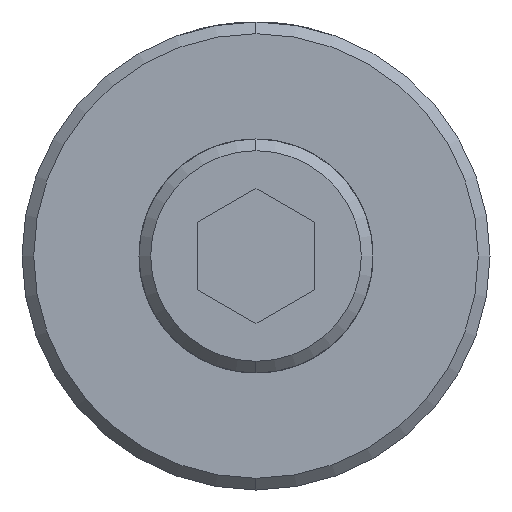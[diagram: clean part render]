
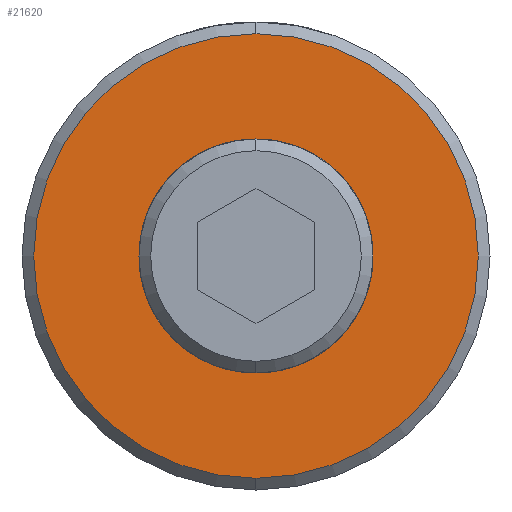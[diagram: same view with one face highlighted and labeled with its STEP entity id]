
A CAD part, left-side view. The second image highlights one B-rep face of the part: STEP entity #21620.
In plain terms, the highlighted planar face has unit normal (-1, 0, 0) as drawn and (0, 0, 1) by its records, which use the part's own axes.
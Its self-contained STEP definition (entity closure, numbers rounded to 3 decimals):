
#16779=CARTESIAN_POINT('',(0.,0.,0.));
#16780=DIRECTION('',(0.,0.,-1.));
#16781=DIRECTION('',(-1.,0.,0.));
#16782=AXIS2_PLACEMENT_3D('',#16779,#16780,#16781);
#16784=CARTESIAN_POINT('',(0.,0.,0.));
#16785=DIRECTION('',(0.,0.,-1.));
#16786=DIRECTION('',(1.,0.,0.));
#16787=AXIS2_PLACEMENT_3D('',#16784,#16785,#16786);
#16789=CARTESIAN_POINT('',(-0.998,-2.562,0.));
#16790=CARTESIAN_POINT('',(-1.332,-2.451,0.));
#16791=CARTESIAN_POINT('',(-1.91,-2.126,0.));
#16792=CARTESIAN_POINT('',(-2.57,-1.358,0.));
#16793=CARTESIAN_POINT('',(-2.906,-0.45,0.));
#16794=CARTESIAN_POINT('',(-2.943,0.39,0.));
#16795=CARTESIAN_POINT('',(-2.778,1.125,0.));
#16796=CARTESIAN_POINT('',(-2.574,1.538,0.));
#16797=CARTESIAN_POINT('',(-2.451,1.73,0.));
#16799=CARTESIAN_POINT('',(0.,0.,0.));
#16800=DIRECTION('',(0.,0.,-1.));
#16801=DIRECTION('',(0.882,-0.472,0.));
#16802=AXIS2_PLACEMENT_3D('',#16799,#16800,#16801);
#16804=CARTESIAN_POINT('',(0.737,2.908,0.));
#16805=CARTESIAN_POINT('',(0.915,2.854,0.));
#16806=CARTESIAN_POINT('',(1.254,2.716,0.));
#16807=CARTESIAN_POINT('',(1.722,2.415,0.));
#16808=CARTESIAN_POINT('',(2.13,2.027,0.));
#16809=CARTESIAN_POINT('',(2.463,1.56,0.));
#16810=CARTESIAN_POINT('',(2.707,1.008,0.));
#16811=CARTESIAN_POINT('',(2.832,0.397,0.));
#16812=CARTESIAN_POINT('',(2.82,-0.213,0.));
#16813=CARTESIAN_POINT('',(2.688,-0.78,0.));
#16814=CARTESIAN_POINT('',(2.525,-1.13,0.));
#16815=CARTESIAN_POINT('',(2.425,-1.297,0.));
#16817=CARTESIAN_POINT('',(-2.451,1.73,0.));
#16818=CARTESIAN_POINT('',(-2.275,1.979,0.));
#16819=CARTESIAN_POINT('',(-1.867,2.405,0.));
#16820=CARTESIAN_POINT('',(-1.051,2.861,0.));
#16821=CARTESIAN_POINT('',(-0.153,3.04,0.));
#16822=CARTESIAN_POINT('',(0.439,2.984,0.));
#16823=CARTESIAN_POINT('',(0.737,2.908,0.));
#21291=CARTESIAN_POINT('',(-5.7,0.,0.));
#21292=CARTESIAN_POINT('',(5.7,0.,0.));
#21293=VERTEX_POINT('',#21291);
#21294=VERTEX_POINT('',#21292);
#21331=VERTEX_POINT('',#16789);
#21332=VERTEX_POINT('',#16797);
#21333=VERTEX_POINT('',#16823);
#21334=VERTEX_POINT('',#16815);
#21599=CARTESIAN_POINT('',(0.,0.,0.));
#21600=DIRECTION('',(0.,0.,1.));
#21601=DIRECTION('',(-1.,0.,0.));
#21602=AXIS2_PLACEMENT_3D('',#21599,#21600,#21601);
#21603=PLANE('',#21602);
#21605=ORIENTED_EDGE('',*,*,#21604,.T.);
#21607=ORIENTED_EDGE('',*,*,#21606,.T.);
#21608=EDGE_LOOP('',(#21605,#21607));
#21609=FACE_OUTER_BOUND('',#21608,.F.);
#21611=ORIENTED_EDGE('',*,*,#21610,.F.);
#21613=ORIENTED_EDGE('',*,*,#21612,.F.);
#21615=ORIENTED_EDGE('',*,*,#21614,.F.);
#21617=ORIENTED_EDGE('',*,*,#21616,.F.);
#21618=EDGE_LOOP('',(#21611,#21613,#21615,#21617));
#21619=FACE_BOUND('',#21618,.F.);
#21620=ADVANCED_FACE('',(#21609,#21619),#21603,.T.);
#16783=CIRCLE('',#16782,5.7);
#16788=CIRCLE('',#16787,5.7);
#16798=B_SPLINE_CURVE_WITH_KNOTS('',3,(#16789,#16790,#16791,#16792,#16793,
#16794,#16795,#16796,#16797),.UNSPECIFIED.,.F.,.F.,(4,1,1,1,1,1,4),(0.,
0.167,0.333,0.5,0.667,0.833,
1.),.UNSPECIFIED.);
#16803=CIRCLE('',#16802,2.75);
#16816=B_SPLINE_CURVE_WITH_KNOTS('',3,(#16804,#16805,#16806,#16807,#16808,
#16809,#16810,#16811,#16812,#16813,#16814,#16815),.UNSPECIFIED.,.F.,.F.,(4,1,1,
1,1,1,1,1,1,4),(0.,0.111,0.222,0.333,
0.444,0.556,0.667,0.778,
0.889,1.),.UNSPECIFIED.);
#16824=B_SPLINE_CURVE_WITH_KNOTS('',3,(#16817,#16818,#16819,#16820,#16821,
#16822,#16823),.UNSPECIFIED.,.F.,.F.,(4,1,1,1,4),(0.,0.25,0.5,0.75,
1.),.UNSPECIFIED.);
#21604=EDGE_CURVE('',#21293,#21294,#16783,.T.);
#21606=EDGE_CURVE('',#21294,#21293,#16788,.T.);
#21610=EDGE_CURVE('',#21331,#21332,#16798,.T.);
#21612=EDGE_CURVE('',#21334,#21331,#16803,.T.);
#21614=EDGE_CURVE('',#21333,#21334,#16816,.T.);
#21616=EDGE_CURVE('',#21332,#21333,#16824,.T.);
